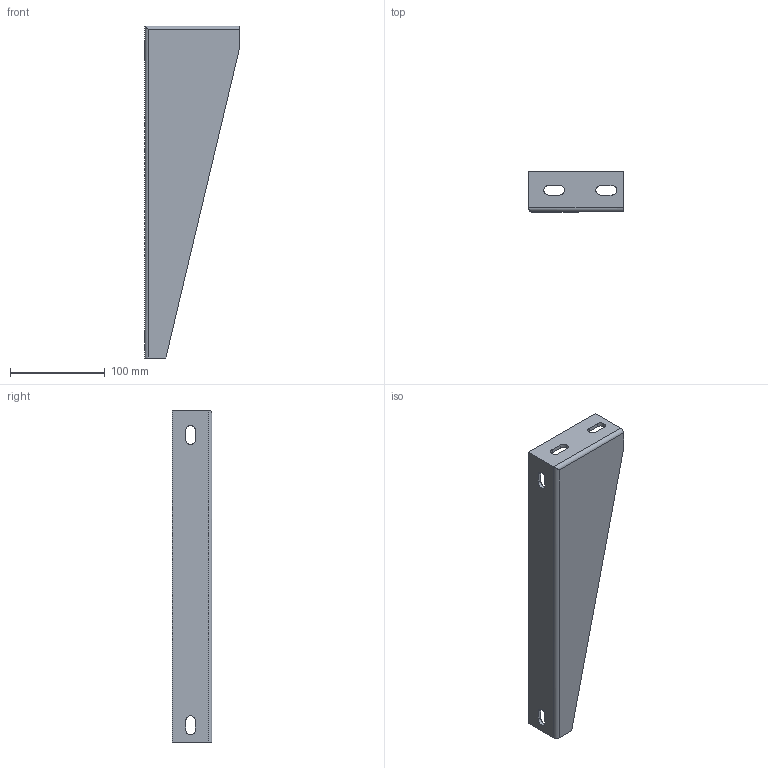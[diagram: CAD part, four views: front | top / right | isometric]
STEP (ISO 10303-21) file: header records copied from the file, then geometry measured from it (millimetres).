
FILE_DESCRIPTION((''),'2;1');
FILE_NAME('SUM350SN','2002-12-27T',('Lipro doo'),('Lipro d.o.o.'),'PRO/ENGINEER BY PARAMETRIC TECHNOLOGY CORPORATION, 2001150','PRO/ENGINEER BY PARAMETRIC TECHNOLOGY CORPORATION, 2001150','');
FILE_SCHEMA(('CONFIG_CONTROL_DESIGN'));
Length unit declared in the file: millimetre
Products named in the file (1): SUM350SN
Bounding box: 100 x 42 x 350 mm (x, y, z)
Volume: 153085 mm3; surface area: 80447.7 mm2
Topology: 1 solids, 1 shells, 30 faces, 82 edges, 54 vertices
Faces by surface type: plane 18, cylinder 12
Entity records: 1017 total; most frequent: CARTESIAN_POINT 183, ORIENTED_EDGE 164, DIRECTION 160, EDGE_CURVE 82, VECTOR 60, LINE 60, VERTEX_POINT 54, AXIS2_PLACEMENT_3D 50
